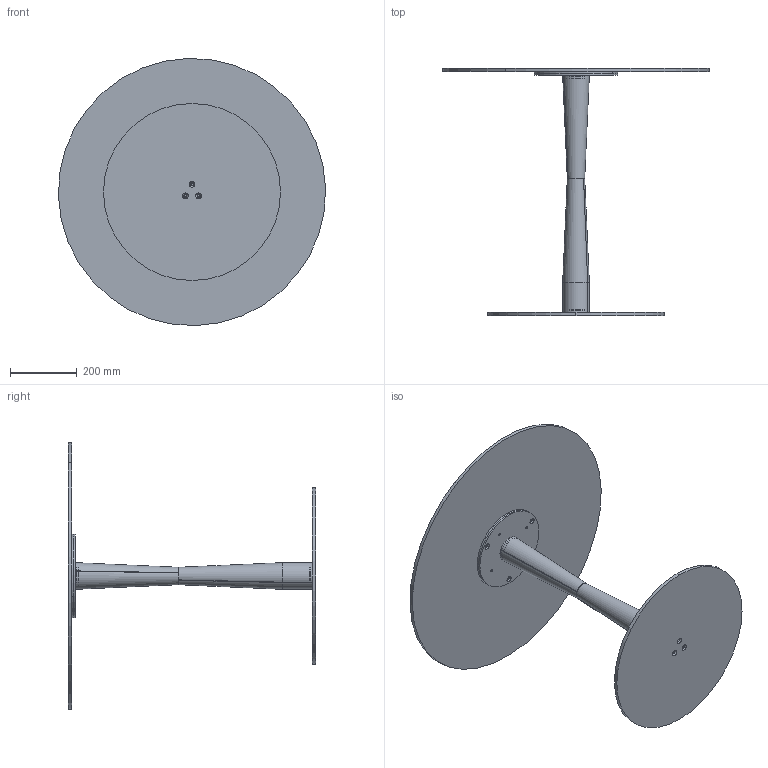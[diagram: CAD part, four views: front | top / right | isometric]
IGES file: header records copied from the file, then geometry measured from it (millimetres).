
Start section: SolidWorks IGES file using analytic representation for surfaces
Global section: file name: Y:\eforma\TECNICO\SOLIDWORKS\E-FORMA\5-TAVOLINI BISTRO\FILÚ\02 parts\FI20G.IGS; native system: SolidWorks 2022; preprocessor: SolidWorks 2022; author: eforma.tech; date: 240808.100126; units: millimetre
Bounding box: 799.61 x 741 x 799.61 mm (x, y, z)
Volume: 8100520.3 mm3; surface area: 2009398.4 mm2
Topology: 8 solids, 8 shells, 114 faces, 264 edges, 166 vertices
Faces by surface type: revolution 98, plane 16
